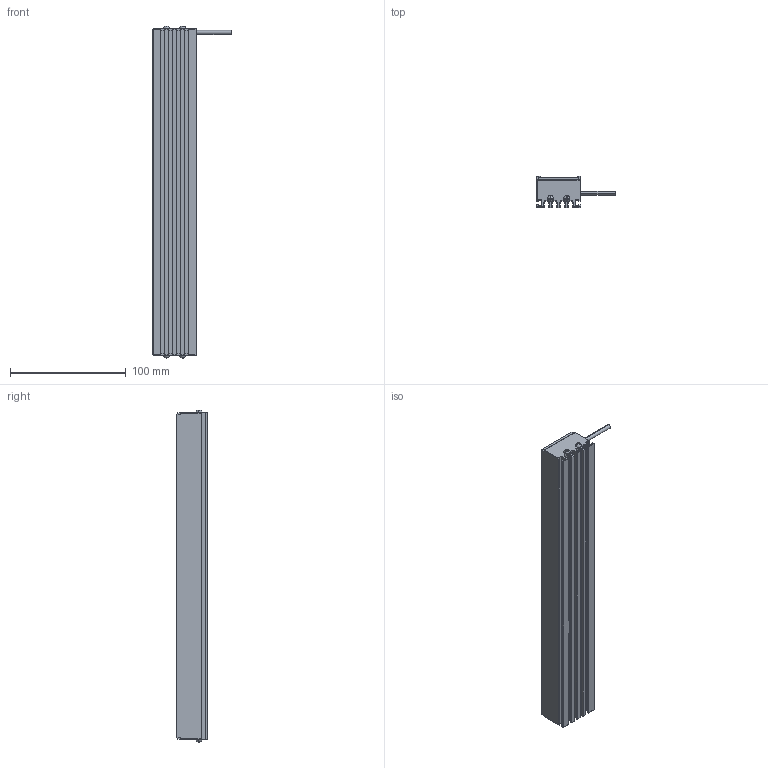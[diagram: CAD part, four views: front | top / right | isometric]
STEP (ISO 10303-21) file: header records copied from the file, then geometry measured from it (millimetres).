
FILE_DESCRIPTION((''),'2;1');
FILE_NAME('MV-LLDS-282-38_ASM','2020-12-29T',('Administrator'),(''),'PRO/ENGINEER BY PARAMETRIC TECHNOLOGY CORPORATION, 2010100','PRO/ENGINEER BY PARAMETRIC TECHNOLOGY CORPORATION, 2010100','');
FILE_SCHEMA(('CONFIG_CONTROL_DESIGN'));
Length unit declared in the file: millimetre
Products named in the file (4): BL-6_2_; MSB-6_1; M3-5_3; MV-LLDS-282-38_ASM
Assembly tree (6 placements, depth 2):
  MV-LLDS-282-38_ASM
    BL-6_2_
    MSB-6_1
    M3-5_3  x4
Bounding box: 68 x 27 x 286.68 mm (x, y, z)
Volume: 236024.9 mm3; surface area: 98922.3 mm2
Topology: 6 solids, 23 shells, 380 faces, 1002 edges, 648 vertices
Faces by surface type: plane 230, cylinder 94, cone 24, bspline 16, torus 8, sphere 8
Entity records: 9072 total; most frequent: CARTESIAN_POINT 1904, DIRECTION 1460, ORIENTED_EDGE 1438, EDGE_CURVE 739, VECTOR 534, LINE 534, VERTEX_POINT 489, AXIS2_PLACEMENT_3D 463
